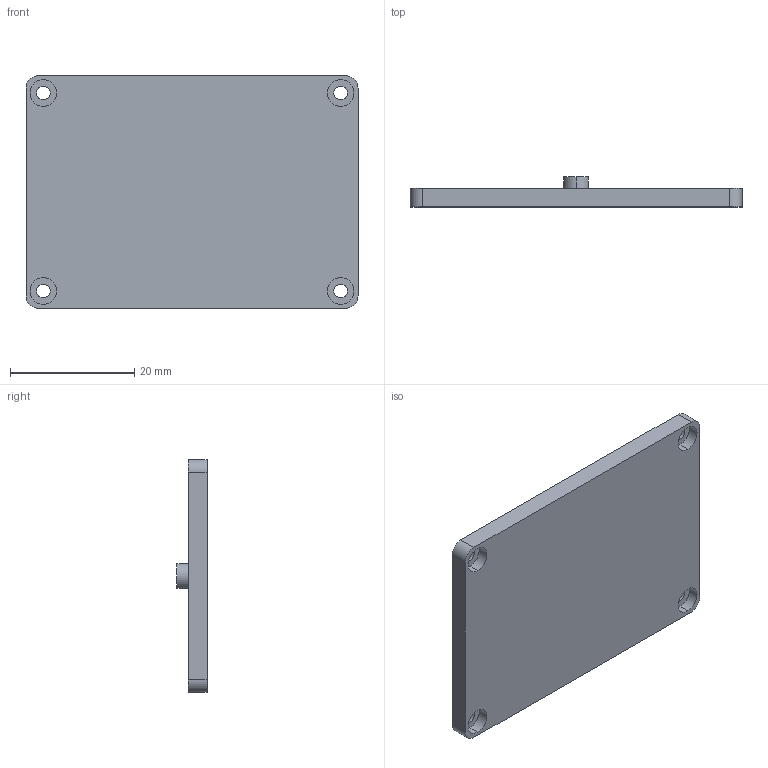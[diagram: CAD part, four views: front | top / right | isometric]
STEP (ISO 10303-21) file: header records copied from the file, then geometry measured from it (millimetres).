
FILE_DESCRIPTION (( 'STEP AP214' ), '1' );
FILE_NAME ('Cos PP94 D.STEP', '2017-07-31T08:08:30', ( 'aaa' ), ( '' ), 'SwSTEP 2.0', 'SolidWorks 2013', '' );
FILE_SCHEMA (( 'AUTOMOTIVE_DESIGN' ));
Length unit declared in the file: millimetre
Products named in the file (1): Cos PP94 D
Bounding box: 53.5 x 4.85 x 37.5 mm (x, y, z)
Volume: 3262.9 mm3; surface area: 4959 mm2
Topology: 1 solids, 1 shells, 61 faces, 156 edges, 104 vertices
Faces by surface type: cylinder 36, plane 25
Entity records: 1932 total; most frequent: DIRECTION 352, CARTESIAN_POINT 322, ORIENTED_EDGE 312, EDGE_CURVE 156, AXIS2_PLACEMENT_3D 134, VERTEX_POINT 104, LINE 84, VECTOR 84
